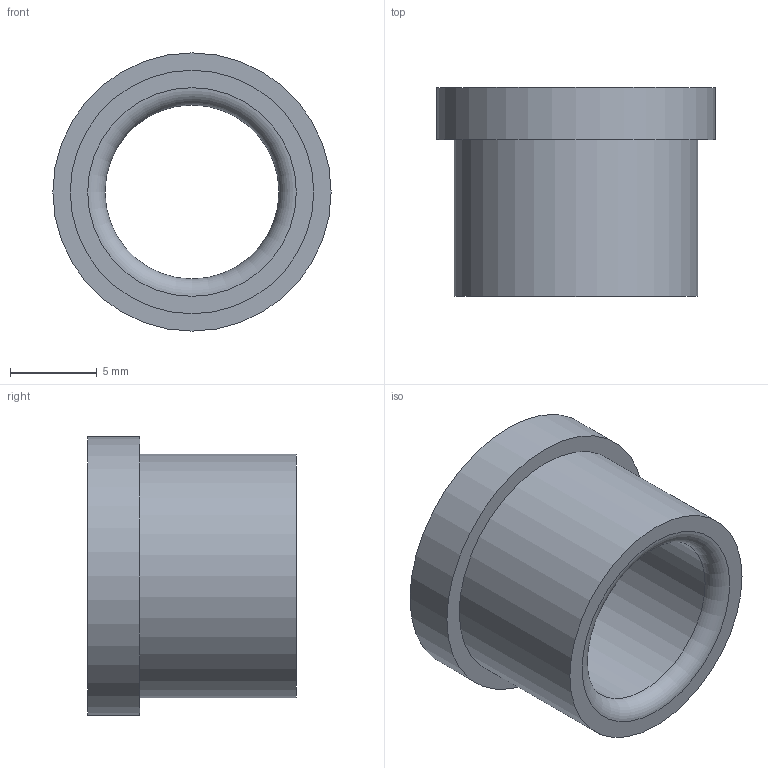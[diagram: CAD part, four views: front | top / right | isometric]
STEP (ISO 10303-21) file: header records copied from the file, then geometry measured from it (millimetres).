
FILE_DESCRIPTION(/* description */ ('STEP AP214'),/* implementation_level */ '2;1');
FILE_NAME(/* name */ '03_12_17900',/* time_stamp */ '2023-06-15T11:35:21+02:00',/* author */ ('License CC BY-ND 4.0'),/* organization */ ('CADENAS'),/* preprocessor_version */ 'ST-DEVELOPER v19.3',/* originating_system */ 'PARTsolutions',/* authorisation */ ' ');
FILE_SCHEMA (('AUTOMOTIVE_DESIGN {1 0 10303 214 3 1 1}'));
Length unit declared in the file: millimetre
Products named in the file (1): VA_Bushing_17900
Bounding box: 16 x 12 x 16 mm (x, y, z)
Volume: 1008.4 mm3; surface area: 1146.3 mm2
Topology: 1 solids, 1 shells, 10 faces, 16 edges, 10 vertices
Faces by surface type: cylinder 4, plane 4, torus 2
Full cylindrical faces by diameter (mm): 10 x1, 10.6 x1, 14 x1, 16 x1
Entity records: 302 total; most frequent: DIRECTION 42, CARTESIAN_POINT 31, AXIS2_PLACEMENT_3D 21, ORIENTED_EDGE 20, EDGE_LOOP 20, FACE_BOUND 20, EDGE_CURVE 10, VERTEX_POINT 10
